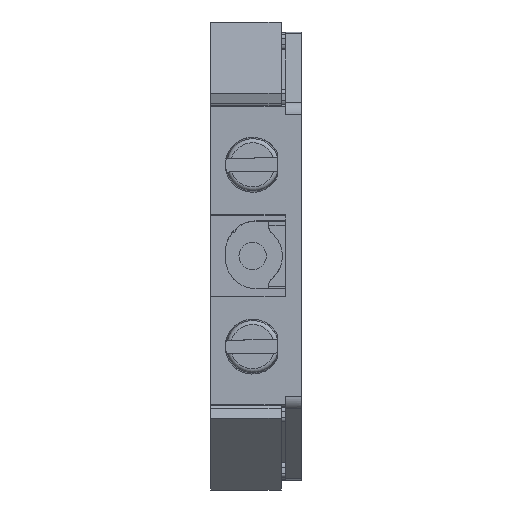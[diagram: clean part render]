
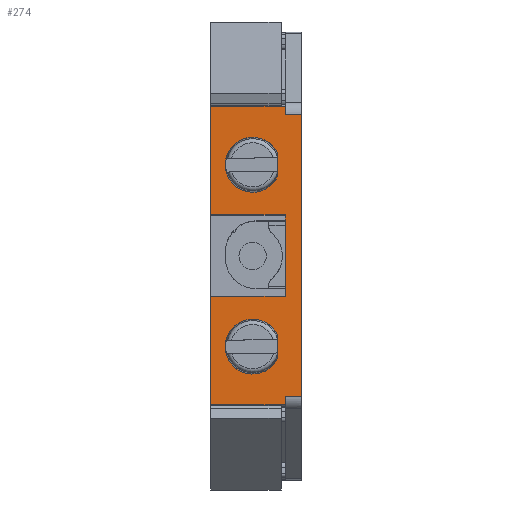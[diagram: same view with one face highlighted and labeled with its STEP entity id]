
A CAD part, top view. The second image highlights one B-rep face of the part: STEP entity #274.
In plain terms, the highlighted planar face has unit normal (0, 0, 1).
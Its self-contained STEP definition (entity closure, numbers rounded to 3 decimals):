
#274=ADVANCED_FACE('',(#21050,#21052,#21054),#21056,.T.);
#21050=FACE_BOUND('',#21051,.T.);
#21051=EDGE_LOOP('',(#37401,#37402,#37403,#37404,#37405,#37406,#37407,#37408,#37409,
#37410,#37411,#37412));
#21052=FACE_BOUND('',#21053,.T.);
#21053=EDGE_LOOP('',(#37413,#37414));
#21054=FACE_BOUND('',#21055,.T.);
#21055=EDGE_LOOP('',(#37415,#37416));
#21056=PLANE('',#21057);
#21057=AXIS2_PLACEMENT_3D('',#21058,#21059,#21060);
#21058=CARTESIAN_POINT('',(0.,-3.,35.));
#21059=DIRECTION('',(-0.,0.,1.));
#21060=DIRECTION('',(0.,-1.,0.));
#37401=ORIENTED_EDGE('',*,*,#50775,.T.);
#37402=ORIENTED_EDGE('',*,*,#50776,.T.);
#37403=ORIENTED_EDGE('',*,*,#50777,.F.);
#37404=ORIENTED_EDGE('',*,*,#50778,.T.);
#37405=ORIENTED_EDGE('',*,*,#50779,.F.);
#37406=ORIENTED_EDGE('',*,*,#50780,.F.);
#37407=ORIENTED_EDGE('',*,*,#50781,.F.);
#37408=ORIENTED_EDGE('',*,*,#50782,.F.);
#37409=ORIENTED_EDGE('',*,*,#50783,.T.);
#37410=ORIENTED_EDGE('',*,*,#50784,.T.);
#37411=ORIENTED_EDGE('',*,*,#50785,.T.);
#37412=ORIENTED_EDGE('',*,*,#50786,.F.);
#37413=ORIENTED_EDGE('',*,*,#50787,.T.);
#37414=ORIENTED_EDGE('',*,*,#50788,.T.);
#37415=ORIENTED_EDGE('',*,*,#50774,.T.);
#37416=ORIENTED_EDGE('',*,*,#50714,.T.);
#50714=EDGE_CURVE('',#57447,#57445,#57448,.F.);
#50774=EDGE_CURVE('',#57445,#57447,#57548,.F.);
#50775=EDGE_CURVE('',#57549,#57550,#57551,.T.);
#50776=EDGE_CURVE('',#57550,#57552,#57553,.T.);
#50777=EDGE_CURVE('',#57554,#57552,#57555,.T.);
#50778=EDGE_CURVE('',#57554,#57556,#57557,.T.);
#50779=EDGE_CURVE('',#57558,#57556,#57559,.T.);
#50780=EDGE_CURVE('',#57560,#57558,#57561,.T.);
#50781=EDGE_CURVE('',#57562,#57560,#57563,.T.);
#50782=EDGE_CURVE('',#57564,#57562,#57565,.T.);
#50783=EDGE_CURVE('',#57564,#57566,#57567,.T.);
#50784=EDGE_CURVE('',#57566,#57568,#57569,.T.);
#50785=EDGE_CURVE('',#57568,#57570,#57571,.T.);
#50786=EDGE_CURVE('',#57549,#57570,#57572,.T.);
#50787=EDGE_CURVE('',#57573,#57574,#57575,.F.);
#50788=EDGE_CURVE('',#57574,#57573,#57576,.F.);
#57445=VERTEX_POINT('',#68788);
#57447=VERTEX_POINT('',#68792);
#57448=LINE('',#68793,#68794);
#57548=CIRCLE('',#69214,2.025);
#57549=VERTEX_POINT('',#69218);
#57550=VERTEX_POINT('',#69219);
#57551=LINE('',#69220,#69221);
#57552=VERTEX_POINT('',#69223);
#57553=LINE('',#69224,#69225);
#57554=VERTEX_POINT('',#69227);
#57555=LINE('',#69228,#69229);
#57556=VERTEX_POINT('',#69231);
#57557=LINE('',#69232,#69233);
#57558=VERTEX_POINT('',#69235);
#57559=LINE('',#69236,#69237);
#57560=VERTEX_POINT('',#69239);
#57561=LINE('',#69240,#69241);
#57562=VERTEX_POINT('',#69243);
#57563=LINE('',#69244,#69245);
#57564=VERTEX_POINT('',#69247);
#57565=LINE('',#69248,#69249);
#57566=VERTEX_POINT('',#69251);
#57567=LINE('',#69252,#69253);
#57568=VERTEX_POINT('',#69255);
#57569=LINE('',#69256,#69257);
#57570=VERTEX_POINT('',#69259);
#57571=LINE('',#69260,#69261);
#57572=LINE('',#69263,#69264);
#57573=VERTEX_POINT('',#69266);
#57574=VERTEX_POINT('',#69267);
#57575=CIRCLE('',#69268,2.025);
#57576=LINE('',#69272,#69273);
#68788=CARTESIAN_POINT('',(4.95,5.877,35.));
#68792=CARTESIAN_POINT('',(4.95,7.523,35.));
#68793=CARTESIAN_POINT('',(4.95,5.877,35.));
#68794=VECTOR('',#68795,1.);
#68795=DIRECTION('',(0.,1.,0.));
#69214=AXIS2_PLACEMENT_3D('',#69215,#69216,#69217);
#69215=CARTESIAN_POINT('',(3.1,6.7,35.));
#69216=DIRECTION('',(-0.,0.,1.));
#69217=DIRECTION('',(0.914,0.407,0.));
#69218=CARTESIAN_POINT('',(0.,-3.,35.));
#69219=CARTESIAN_POINT('',(0.,-11.,35.));
#69220=CARTESIAN_POINT('',(0.,-3.,35.));
#69221=VECTOR('',#69222,1.);
#69222=DIRECTION('',(0.,-1.,0.));
#69223=CARTESIAN_POINT('',(5.5,-11.,35.));
#69224=CARTESIAN_POINT('',(0.,-11.,35.));
#69225=VECTOR('',#69226,1.);
#69226=DIRECTION('',(1.,0.,0.));
#69227=CARTESIAN_POINT('',(5.5,-10.398,35.));
#69228=CARTESIAN_POINT('',(5.5,-10.398,35.));
#69229=VECTOR('',#69230,1.);
#69230=DIRECTION('',(0.,-1.,0.));
#69231=CARTESIAN_POINT('',(6.7,-10.398,35.));
#69232=CARTESIAN_POINT('',(5.5,-10.398,35.));
#69233=VECTOR('',#69234,1.);
#69234=DIRECTION('',(1.,0.,0.));
#69235=CARTESIAN_POINT('',(6.7,10.398,35.));
#69236=CARTESIAN_POINT('',(6.7,10.398,35.));
#69237=VECTOR('',#69238,1.);
#69238=DIRECTION('',(0.,-1.,0.));
#69239=CARTESIAN_POINT('',(5.5,10.398,35.));
#69240=CARTESIAN_POINT('',(5.5,10.398,35.));
#69241=VECTOR('',#69242,1.);
#69242=DIRECTION('',(1.,0.,0.));
#69243=CARTESIAN_POINT('',(5.5,11.,35.));
#69244=CARTESIAN_POINT('',(5.5,11.,35.));
#69245=VECTOR('',#69246,1.);
#69246=DIRECTION('',(0.,-1.,0.));
#69247=CARTESIAN_POINT('',(0.,11.,35.));
#69248=CARTESIAN_POINT('',(0.,11.,35.));
#69249=VECTOR('',#69250,1.);
#69250=DIRECTION('',(1.,0.,0.));
#69251=CARTESIAN_POINT('',(0.,3.,35.));
#69252=CARTESIAN_POINT('',(0.,11.,35.));
#69253=VECTOR('',#69254,1.);
#69254=DIRECTION('',(0.,-1.,0.));
#69255=CARTESIAN_POINT('',(5.5,3.,35.));
#69256=CARTESIAN_POINT('',(0.,3.,35.));
#69257=VECTOR('',#69258,1.);
#69258=DIRECTION('',(1.,0.,0.));
#69259=CARTESIAN_POINT('',(5.5,-3.,35.));
#69260=CARTESIAN_POINT('',(5.5,3.,35.));
#69261=VECTOR('',#69262,1.);
#69262=DIRECTION('',(0.,-1.,0.));
#69263=CARTESIAN_POINT('',(0.,-3.,35.));
#69264=VECTOR('',#69265,1.);
#69265=DIRECTION('',(1.,0.,0.));
#69266=CARTESIAN_POINT('',(4.95,-7.523,35.));
#69267=CARTESIAN_POINT('',(4.95,-5.877,35.));
#69268=AXIS2_PLACEMENT_3D('',#69269,#69270,#69271);
#69269=CARTESIAN_POINT('',(3.1,-6.7,35.));
#69270=DIRECTION('',(-0.,0.,1.));
#69271=DIRECTION('',(0.914,0.407,0.));
#69272=CARTESIAN_POINT('',(4.95,-7.523,35.));
#69273=VECTOR('',#69274,1.);
#69274=DIRECTION('',(0.,1.,0.));
